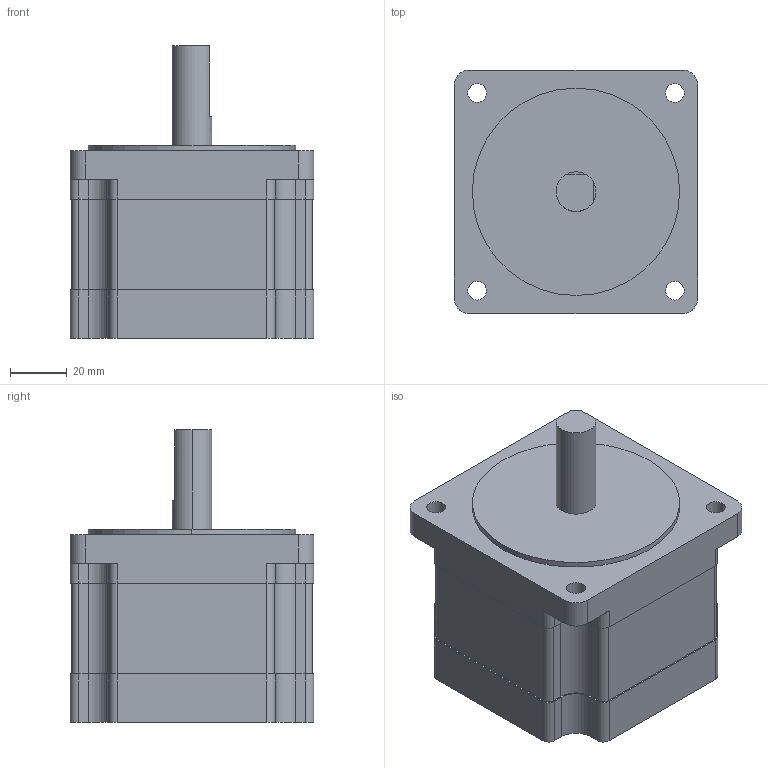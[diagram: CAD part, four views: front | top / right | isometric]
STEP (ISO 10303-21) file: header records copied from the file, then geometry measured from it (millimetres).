
FILE_DESCRIPTION (( 'STEP AP214' ), '1' );
FILE_NAME ('EXMK296-02A.STEP', '2016-09-09T06:07:32', ( 'hoho' ), ( '' ), 'SwSTEP 2.0', 'SolidWorks 2013', '' );
FILE_SCHEMA (( 'AUTOMOTIVE_DESIGN' ));
Length unit declared in the file: millimetre
Products named in the file (1): EXMK296-02A
Bounding box: 85.8 x 85.8 x 103 mm (x, y, z)
Volume: 453317.6 mm3; surface area: 38732.7 mm2
Topology: 1 solids, 1 shells, 102 faces, 288 edges, 192 vertices
Faces by surface type: cylinder 52, plane 50
Entity records: 3676 total; most frequent: DIRECTION 602, CARTESIAN_POINT 583, ORIENTED_EDGE 576, EDGE_CURVE 288, AXIS2_PLACEMENT_3D 211, VERTEX_POINT 192, LINE 180, VECTOR 180
